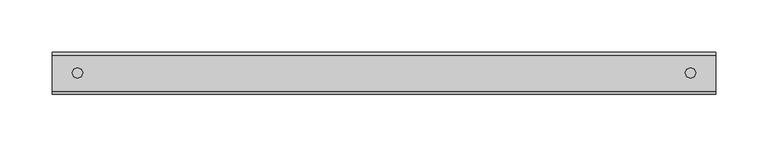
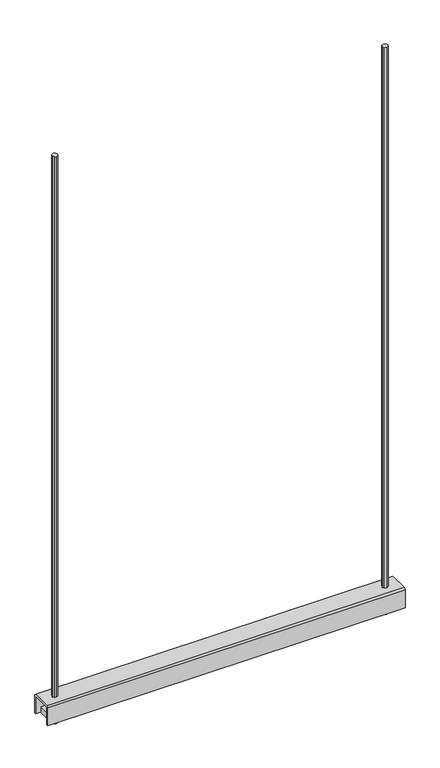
"""IFC4 building model written with IfcOpenShell, lengths in millimetres: proxy geometry, Beared-Hanger : BearedHanger."""

import ifcopenshell
import ifcopenshell.guid

model = None  # the IFC model being written
_history = None  # IfcOwnerHistory: only IFC2X3 demands one
_inside = {}  # id of a spatial element -> (the spatial element, [elements in it])
_under = {}  # id of a project, library or spatial element -> (it, [spatial elements below it])
_declared = {}  # id of a project -> (the project, [libraries it declares])
_typed = {}  # id of a type object -> (the type object, [elements of that type])
_made_of = {}  # id of a material, layer set ... -> (it, [elements and type objects made of it])


def new_model(schema):
    """Start an empty IFC model of exactly this schema.

    Asked for "IFC4X3", IfcOpenShell would pick the latest addendum, in which some entities
    have other attributes; the version numbers below select the first issue.
    IFC2X3 requires an IfcOwnerHistory on every rooted entity: one is made here for all.
    """
    global model, _history
    if schema == "IFC4X3":
        model = ifcopenshell.file(schema_version=(4, 3, 0, 0))
    else:
        model = ifcopenshell.file(schema=schema)
    _inside.clear()
    _under.clear()
    _declared.clear()
    _typed.clear()
    _made_of.clear()
    _history = None
    if model.schema == "IFC2X3":
        org = make("IfcOrganization", Name="unknown")
        user = make(
            "IfcPersonAndOrganization",
            ThePerson=make("IfcPerson", FamilyName="unknown"),
            TheOrganization=org,
        )
        app = make(
            "IfcApplication",
            ApplicationDeveloper=org,
            Version="unknown",
            ApplicationFullName="unknown",
            ApplicationIdentifier="unknown",
        )
        _history = make(
            "IfcOwnerHistory",
            OwningUser=user,
            OwningApplication=app,
            ChangeAction="ADDED",
            CreationDate=0,
        )
    return model


def make(cls, **values):
    """One entity of the class cls with the attributes given. An attribute that is None is left unset."""
    return model.create_entity(
        cls, **{name: value for name, value in values.items() if value is not None}
    )


def rooted(cls, **values):
    """An entity with a GlobalId (a new one), such as an element, a storey or a relation."""
    return make(cls, GlobalId=ifcopenshell.guid.new(), OwnerHistory=_history, **values)


def si_unit(unit_type, name, prefix=None):
    """IfcSIUnit, for example si_unit("LENGTHUNIT", "METRE", prefix="MILLI")."""
    return make("IfcSIUnit", UnitType=unit_type, Prefix=prefix, Name=name)


def assignment(units):
    """IfcUnitAssignment: the units of a project."""
    return None if units is None else make("IfcUnitAssignment", Units=units)


def point(xyz):
    """IfcCartesianPoint."""
    return None if xyz is None else make("IfcCartesianPoint", Coordinates=xyz)


def direction(xyz):
    """IfcDirection."""
    return None if xyz is None else make("IfcDirection", DirectionRatios=xyz)


def frame(location, z_axis=None, x_axis=None):
    """IfcAxis2Placement3D, a coordinate frame: its origin and axes. An axis left out is left unset."""
    return make(
        "IfcAxis2Placement3D",
        Location=point(location),
        Axis=direction(z_axis),
        RefDirection=direction(x_axis),
    )


def origin():
    """The frame at (0, 0, 0) with its axes left unset."""
    return frame((0.0, 0.0, 0.0))


def place(relative_to, where):
    """IfcLocalPlacement: puts the frame where relative to a parent placement (None: the world)."""
    return make(
        "IfcLocalPlacement", PlacementRelTo=relative_to, RelativePlacement=where
    )


def context(
    kind, dimensions, precision=None, world=None, true_north=None, identifier=None
):
    """IfcGeometricRepresentationContext, for example the 3D "Model" context."""
    return make(
        "IfcGeometricRepresentationContext",
        ContextIdentifier=identifier,
        ContextType=kind,
        CoordinateSpaceDimension=dimensions,
        Precision=precision,
        WorldCoordinateSystem=world,
        TrueNorth=true_north,
    )


def project(units=None, contexts=None):
    """IfcProject with its units and contexts."""
    return rooted(
        "IfcProject",
        Name="project",
        RepresentationContexts=contexts,
        UnitsInContext=assignment(units),
    )


def spatial(cls, under=None, at=None, **own):
    """A site, building, storey or space (cls), placed at a placement, below another one or the project."""
    s = rooted(cls, ObjectPlacement=at, **own)
    if under is not None:
        _under.setdefault(under.id(), (under, []))[1].append(s)
    return s


def polyline(points):
    """IfcPolyline through the points."""
    return make("IfcPolyline", Points=[point(p) for p in points])


def outline(outer, holes=None, kind="AREA"):
    """IfcArbitraryClosedProfileDef: a profile drawn as a closed curve; with holes, ...WithVoids."""
    if holes is None:
        return make("IfcArbitraryClosedProfileDef", ProfileType=kind, OuterCurve=outer)
    return make(
        "IfcArbitraryProfileDefWithVoids",
        ProfileType=kind,
        OuterCurve=outer,
        InnerCurves=holes,
    )


def extrude(swept, where, along, depth):
    """IfcExtrudedAreaSolid: the profile swept, set in the frame where, extruded along a direction by depth."""
    return make(
        "IfcExtrudedAreaSolid",
        SweptArea=swept,
        Position=where,
        ExtrudedDirection=direction(along),
        Depth=depth,
    )


def shape(context_of_items, identifier, shape_type, items):
    """IfcShapeRepresentation: the items that make up one representation, for example the "Body"."""
    return make(
        "IfcShapeRepresentation",
        ContextOfItems=context_of_items,
        RepresentationIdentifier=identifier,
        RepresentationType=shape_type,
        Items=items,
    )


def source(mapping_origin, context_of_items, identifier, shape_type, items):
    """IfcRepresentationMap: a shape defined once, which mapped items show again and again."""
    return make(
        "IfcRepresentationMap",
        MappingOrigin=mapping_origin,
        MappedRepresentation=shape(context_of_items, identifier, shape_type, items),
    )


def transform(
    local_origin,
    x_axis=None,
    y_axis=None,
    z_axis=None,
    scale=None,
    scale2=None,
    scale3=None,
    uniform=True,
):
    """IfcCartesianTransformationOperator3D, or its non-uniform kind. x_axis, y_axis, z_axis: its Axis1, 2, 3."""
    if uniform:
        return make(
            "IfcCartesianTransformationOperator3D",
            Axis1=direction(x_axis),
            Axis2=direction(y_axis),
            LocalOrigin=point(local_origin),
            Scale=scale,
            Axis3=direction(z_axis),
        )
    return make(
        "IfcCartesianTransformationOperator3DnonUniform",
        Axis1=direction(x_axis),
        Axis2=direction(y_axis),
        LocalOrigin=point(local_origin),
        Scale=scale,
        Axis3=direction(z_axis),
        Scale2=scale2,
        Scale3=scale3,
    )


def mapped(mapping_source, mapping_target):
    """IfcMappedItem: shows the shape of a source again, moved by a transform."""
    return make(
        "IfcMappedItem", MappingSource=mapping_source, MappingTarget=mapping_target
    )


def made_of(thing, what):
    """Note that an element or type object is made of a material, layer set ...; save() writes the relation."""
    if what is not None:
        _made_of.setdefault(what.id(), (what, []))[1].append(thing)
    return thing


def element(
    cls,
    number,
    at=None,
    inside=None,
    cuts=None,
    type_object=None,
    material=None,
    context=None,
    identifier="Body",
    shape_type=None,
    held_by="IfcProductDefinitionShape",
    body=None,
    shapes=None,
    **own,
):
    """One element of the class cls, such as IfcWall. Its Tag is "e" and its number.

    at: its placement. inside: the storey or other place that contains it. cuts: it is an
    opening in that element (IfcRelVoidsElement). A single representation is given by context,
    identifier, shape_type and body (its items); several are given by shapes. held_by: the class
    of the entity that holds the representations. save() writes the other relations.
    """
    e = rooted(cls, Tag="e%d" % number, ObjectPlacement=at, **own)
    if body is not None:
        shapes = [shape(context, identifier, shape_type, body)]
    if shapes is not None:
        e.Representation = make(held_by, Representations=shapes)
    if inside is not None:
        _inside.setdefault(inside.id(), (inside, []))[1].append(e)
    if cuts is not None:
        rooted(
            "IfcRelVoidsElement", RelatingBuildingElement=cuts, RelatedOpeningElement=e
        )
    if type_object is not None:
        _typed.setdefault(type_object.id(), (type_object, []))[1].append(e)
    return made_of(e, material)


def aggregate(whole, parts):
    """IfcRelAggregates: a whole, such as a stair, and the parts it consists of."""
    return rooted("IfcRelAggregates", RelatingObject=whole, RelatedObjects=parts)


def save(model, path):
    """Write the relations noted so far, then the file.

    IfcRelAggregates (storeys below a building ...), IfcRelContainedInSpatialStructure (elements
    in a storey), IfcRelDefinesByType, IfcRelAssociatesMaterial and IfcRelDeclares: one each for
    every whole, place, type object, material and project.
    """
    for whole, parts in _under.values():
        aggregate(whole, parts)
    for where, things in _inside.values():
        rooted(
            "IfcRelContainedInSpatialStructure",
            RelatedElements=things,
            RelatingStructure=where,
        )
    for kind, things in _typed.values():
        rooted("IfcRelDefinesByType", RelatedObjects=things, RelatingType=kind)
    for what, things in _made_of.values():
        rooted("IfcRelAssociatesMaterial", RelatedObjects=things, RelatingMaterial=what)
    for by, libraries in _declared.values():
        rooted("IfcRelDeclares", RelatingContext=by, RelatedDefinitions=libraries)
    model.write(path)


def mechanical_equipment_5023066d(model_context):
    return source(origin(), model_context, "Body", "SweptSolid", [
        extrude(outline(polyline([(278.1124878, -17.3962402), (278.1124878, 16.7883301), (307.9293823, 16.7883301), (307.9293823, -17.3962402), (278.1124878, -17.3962402)])), frame((0.0, 0.0, -1050.8652259), z_axis=(0.0, 0.0, 1.0), x_axis=(1.0, 0.0, 0.0)), (0.0, 0.0, 1.0), 10.0),
        extrude(outline(polyline([(293.0209351, 5.0), (296.5560913, 3.5351562), (298.0215454, 0.0), (296.5560913, -3.5351563), (293.0209351, -5.0), (289.4857788, -3.5351563), (288.0209351, 0.0), (289.4857788, 3.5351562), (293.0209351, 5.0)])), frame((0.0, 0.0, -1064.4498207), z_axis=(0.0, 0.0, 1.0), x_axis=(1.0, 0.0, 0.0)), (0.0, 0.0, 1.0), 1064.4498207),
        extrude(outline(polyline([(-278.1124878, 16.7883301), (-278.1124878, -17.3962402), (-307.9293823, -17.3962402), (-307.9293823, 16.7883301), (-278.1124878, 16.7883301)])), frame((0.0, 0.0, -1050.8652259), z_axis=(0.0, 0.0, 1.0), x_axis=(1.0, 0.0, 0.0)), (0.0, 0.0, 1.0), 10.0),
        extrude(outline(polyline([(-293.0209351, 5.0), (-289.4857788, 3.5351562), (-288.0209351, 0.0), (-289.4857788, -3.5351563), (-293.0209351, -5.0), (-296.5560913, -3.5351563), (-298.0215454, 0.0), (-296.5560913, 3.5351562), (-293.0209351, 5.0)])), frame((0.0, 0.0, -1064.4498207), z_axis=(0.0, 0.0, 1.0), x_axis=(1.0, 0.0, 0.0)), (0.0, 0.0, 1.0), 1064.4498207),
        extrude(outline(polyline([(-17.8259277, -1014.4498207), (17.1740723, -1014.4498207), (19.6740723, -1016.9495155), (19.6740723, -1050.8652259), (16.7883301, -1050.8652259), (16.7883301, -1017.4496986), (-17.3962402, -1017.4496986), (-17.3962402, -1050.8652259), (-20.3259277, -1050.8652259), (-20.3259277, -1016.9495155), (-17.8259277, -1014.4498207)])), frame((-317.0654297, 0.0, 0.0), z_axis=(1.0, 0.0, 0.0), x_axis=(0.0, 1.0, 0.0)), (0.0, 0.0, 1.0), 634.1308594),
    ])


if __name__ == "__main__":
    model = new_model("IFC4")
    model_context = context("Model", 3, world=origin())
    ifc_project = project(units=[si_unit("LENGTHUNIT", "METRE", prefix="MILLI")], contexts=[model_context])
    site = spatial("IfcSite", under=ifc_project)
    building = spatial("IfcBuilding", under=site)
    placement = place(None, origin())
    mechanical_equipment_shape = mechanical_equipment_5023066d(model_context)
    element("IfcBuildingElementProxy", 1, Name="Beared-Hanger : BearedHanger", ObjectType="Beared-Hanger : BearedHanger", at=placement, inside=building, context=model_context, shape_type="MappedRepresentation", body=[
        mapped(mechanical_equipment_shape, transform((0.0, 0.0, 0.0), x_axis=(1.0, 0.0, 0.0), y_axis=(0.0, 1.0, 0.0), z_axis=(0.0, 0.0, 1.0))),
    ])
    save(model, "model.ifc")
